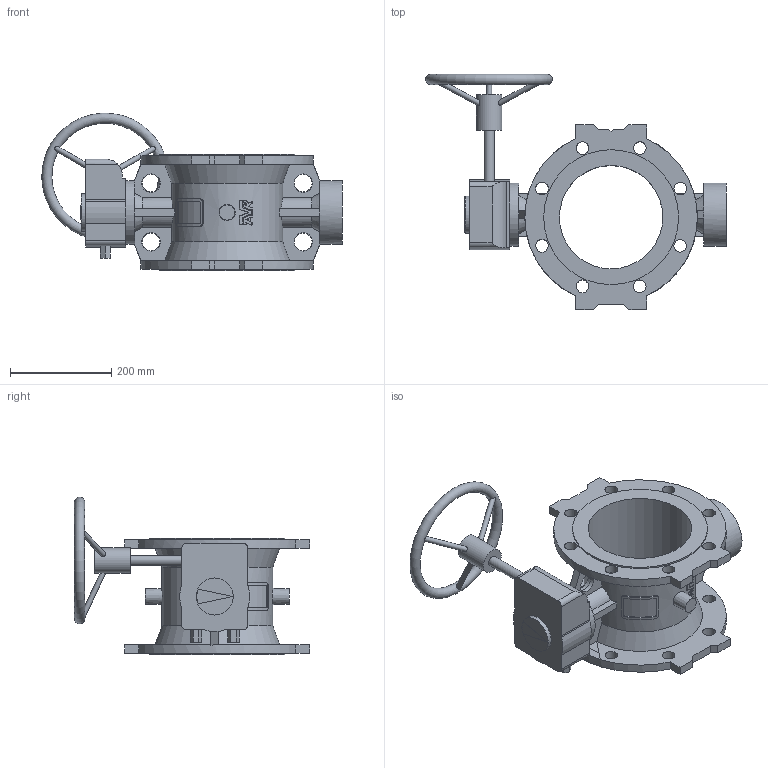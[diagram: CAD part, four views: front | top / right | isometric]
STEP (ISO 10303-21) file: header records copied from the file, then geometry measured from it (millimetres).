
FILE_DESCRIPTION (( 'STEP AP203' ), '1' );
FILE_NAME ('O_756_1_DN200_0XX00_AA0_step.step', '2016-03-04T11:23:04', ( 'Windows User' ), ( 'AVK' ), 'SwSTEP 2.0', 'SolidWorks 2012', '' );
FILE_SCHEMA (( 'CONFIG_CONTROL_DESIGN' ));
Length unit declared in the file: millimetre
Products named in the file (1): O_756_1_DN200_0XX00_AA0_step
Bounding box: 592.49 x 463.5 x 310.85 mm (x, y, z)
Volume: 7108987.2 mm3; surface area: 822843 mm2
Topology: 1 solids, 1 shells, 361 faces, 1014 edges, 676 vertices
Faces by surface type: plane 182, bspline 86, cylinder 70, cone 22, torus 1
Full cylindrical faces by diameter (mm): 10 x3, 20 x1, 25 x16, 50 x1, 73 x1, 125 x2, 204 x1, 266 x2
Entity records: 16479 total; most frequent: CARTESIAN_POINT 7860, ORIENTED_EDGE 1936, DIRECTION 1398, EDGE_CURVE 968, VERTEX_POINT 668, VECTOR 510, LINE 510, EDGE_LOOP 466
